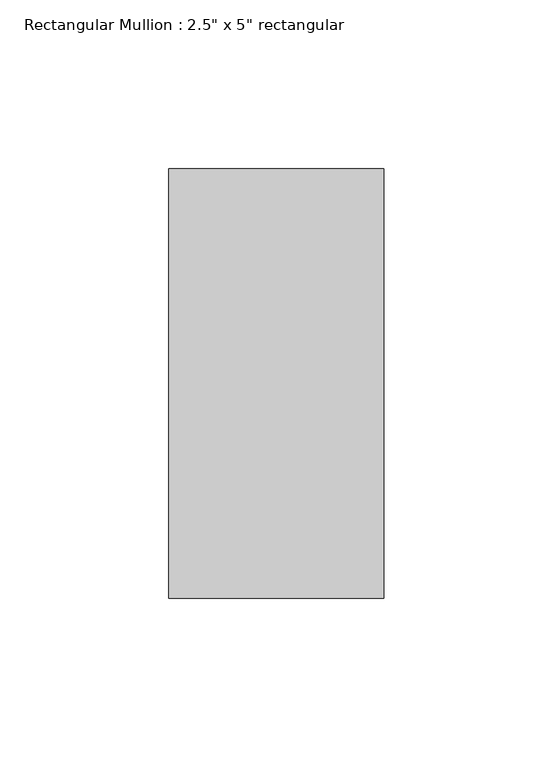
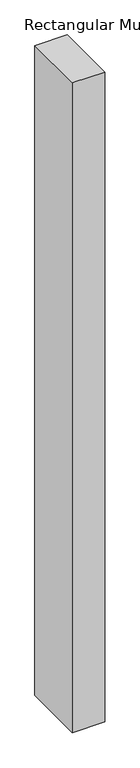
"""IFC4 building model written with IfcOpenShell, lengths in millimetres: member geometry."""

from ifc_helpers import new_model, si_unit, frame, origin, place, context, project, spatial, polyline, outline, extrude, source, transform, mapped, element, save


def member_7bc7e4ba(model_context):
    return source(origin(), model_context, "Body", "SweptSolid", [
        extrude(outline(polyline([(0.0, 76.2), (0.0, -50.8), (-63.5, -50.8), (-63.5, 76.2), (0.0, 76.2)])), frame((0.0, 0.0, -1346.1373293), z_axis=(0.0, 0.0, 1.0), x_axis=(1.0, 0.0, 0.0)), (0.0, 0.0, 1.0), 1346.1373293),
    ])


if __name__ == "__main__":
    model = new_model("IFC4")
    model_context = context("Model", 3, world=origin())
    ifc_project = project(units=[si_unit("LENGTHUNIT", "METRE", prefix="MILLI")], contexts=[model_context])
    site = spatial("IfcSite", under=ifc_project)
    building = spatial("IfcBuilding", under=site)
    placement = place(None, origin())
    member_shape = member_7bc7e4ba(model_context)
    element("IfcMember", 1, ObjectType="Rectangular Mullion : 2.5\" x 5\" rectangular", at=placement, inside=building, context=model_context, shape_type="MappedRepresentation", body=[
        mapped(member_shape, transform((0.0, 0.0, 0.0), x_axis=(1.0, 0.0, 0.0), y_axis=(0.0, 1.0, 0.0), z_axis=(0.0, 0.0, 1.0))),
    ])
    save(model, "model.ifc")
